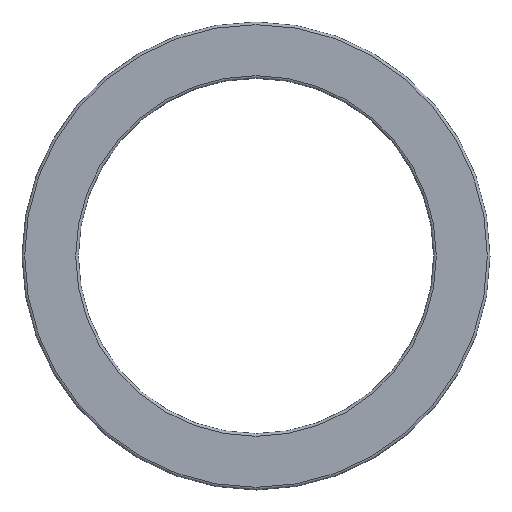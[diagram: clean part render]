
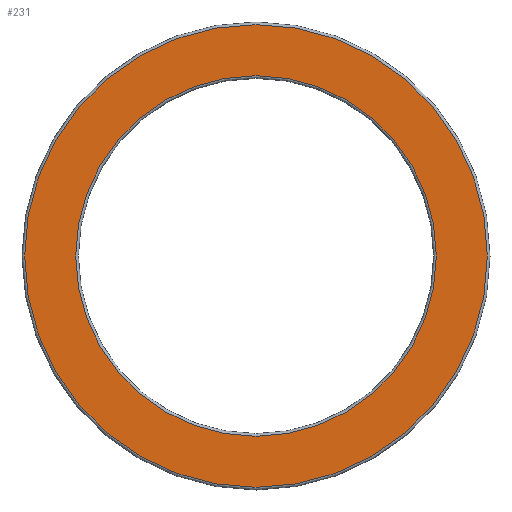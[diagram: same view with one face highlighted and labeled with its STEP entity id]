
A CAD part, front view. The second image highlights one B-rep face of the part: STEP entity #231.
In plain terms, the highlighted planar face has unit normal (0, -1, 0).
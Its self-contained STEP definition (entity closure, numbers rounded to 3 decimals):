
#112 = TOROIDAL_SURFACE('',#113,21.75,0.25);
#113 = AXIS2_PLACEMENT_3D('',#114,#115,#116);
#114 = CARTESIAN_POINT('',(0.,-40.35,46.5));
#115 = DIRECTION('',(-0.,-1.,-0.));
#116 = DIRECTION('',(0.,-0.,1.));
#128 = VERTEX_POINT('',#129);
#129 = CARTESIAN_POINT('',(0.,-40.6,68.25));
#151 = EDGE_CURVE('',#128,#128,#152,.T.);
#152 = SURFACE_CURVE('',#153,(#158,#165),.PCURVE_S1.);
#153 = CIRCLE('',#154,21.75);
#154 = AXIS2_PLACEMENT_3D('',#155,#156,#157);
#155 = CARTESIAN_POINT('',(0.,-40.6,46.5));
#156 = DIRECTION('',(0.,1.,0.));
#157 = DIRECTION('',(0.,-0.,1.));
#158 = PCURVE('',#112,#159);
#159 = DEFINITIONAL_REPRESENTATION('',(#160),#164);
#160 = LINE('',#161,#162);
#161 = CARTESIAN_POINT('',(-0.,1.571));
#162 = VECTOR('',#163,1.);
#163 = DIRECTION('',(-1.,0.));
#164 = ( GEOMETRIC_REPRESENTATION_CONTEXT(2) 
PARAMETRIC_REPRESENTATION_CONTEXT() REPRESENTATION_CONTEXT('2D SPACE',''
  ) );
#165 = PCURVE('',#166,#171);
#166 = PLANE('',#167);
#167 = AXIS2_PLACEMENT_3D('',#168,#169,#170);
#168 = CARTESIAN_POINT('',(0.,-40.6,46.5));
#169 = DIRECTION('',(0.,1.,0.));
#170 = DIRECTION('',(0.,-0.,1.));
#171 = DEFINITIONAL_REPRESENTATION('',(#172),#176);
#172 = CIRCLE('',#173,21.75);
#173 = AXIS2_PLACEMENT_2D('',#174,#175);
#174 = CARTESIAN_POINT('',(0.,0.));
#175 = DIRECTION('',(1.,0.));
#176 = ( GEOMETRIC_REPRESENTATION_CONTEXT(2) 
PARAMETRIC_REPRESENTATION_CONTEXT() REPRESENTATION_CONTEXT('2D SPACE',''
  ) );
#231 = ADVANCED_FACE('',(#232,#235),#166,.F.);
#232 = FACE_BOUND('',#233,.F.);
#233 = EDGE_LOOP('',(#234));
#234 = ORIENTED_EDGE('',*,*,#151,.T.);
#235 = FACE_BOUND('',#236,.F.);
#236 = EDGE_LOOP('',(#237));
#237 = ORIENTED_EDGE('',*,*,#238,.F.);
#238 = EDGE_CURVE('',#239,#239,#241,.T.);
#239 = VERTEX_POINT('',#240);
#240 = CARTESIAN_POINT('',(0.,-40.6,63.45));
#241 = SURFACE_CURVE('',#242,(#247,#254),.PCURVE_S1.);
#242 = CIRCLE('',#243,16.95);
#243 = AXIS2_PLACEMENT_3D('',#244,#245,#246);
#244 = CARTESIAN_POINT('',(0.,-40.6,46.5));
#245 = DIRECTION('',(0.,1.,0.));
#246 = DIRECTION('',(0.,-0.,1.));
#247 = PCURVE('',#166,#248);
#248 = DEFINITIONAL_REPRESENTATION('',(#249),#253);
#249 = CIRCLE('',#250,16.95);
#250 = AXIS2_PLACEMENT_2D('',#251,#252);
#251 = CARTESIAN_POINT('',(0.,0.));
#252 = DIRECTION('',(1.,0.));
#253 = ( GEOMETRIC_REPRESENTATION_CONTEXT(2) 
PARAMETRIC_REPRESENTATION_CONTEXT() REPRESENTATION_CONTEXT('2D SPACE',''
  ) );
#254 = PCURVE('',#255,#260);
#255 = TOROIDAL_SURFACE('',#256,16.95,0.25);
#256 = AXIS2_PLACEMENT_3D('',#257,#258,#259);
#257 = CARTESIAN_POINT('',(0.,-40.35,46.5));
#258 = DIRECTION('',(-0.,-1.,-0.));
#259 = DIRECTION('',(0.,-0.,1.));
#260 = DEFINITIONAL_REPRESENTATION('',(#261),#265);
#261 = LINE('',#262,#263);
#262 = CARTESIAN_POINT('',(-0.,1.571));
#263 = VECTOR('',#264,1.);
#264 = DIRECTION('',(-1.,0.));
#265 = ( GEOMETRIC_REPRESENTATION_CONTEXT(2) 
PARAMETRIC_REPRESENTATION_CONTEXT() REPRESENTATION_CONTEXT('2D SPACE',''
  ) );
